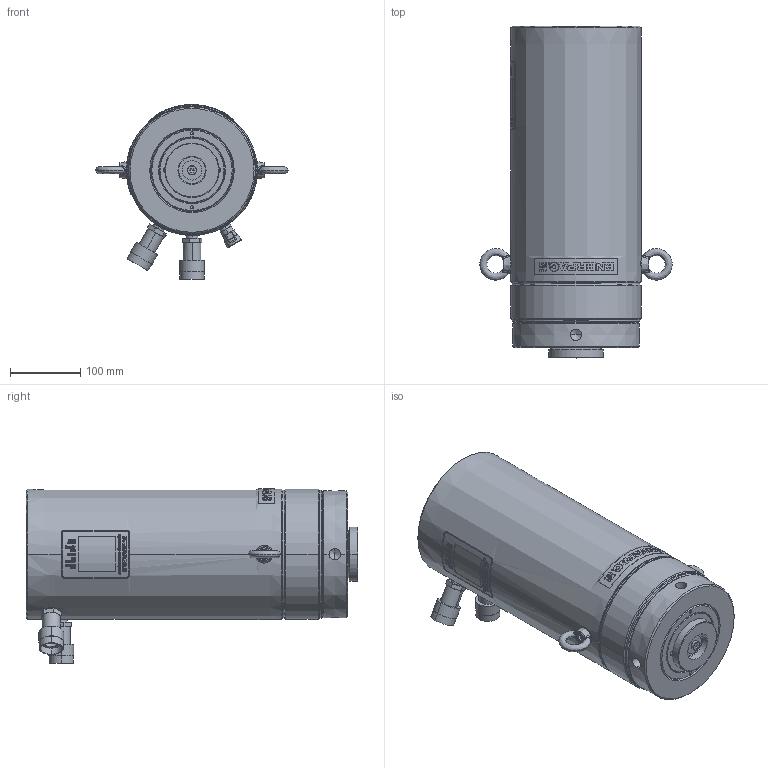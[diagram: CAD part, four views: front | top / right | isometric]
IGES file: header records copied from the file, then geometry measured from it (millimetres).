
Start section:  PTC IGES file: HCRL10010.igs
Global section: file name: HCRL10010.igs; native system: Creo Parametric by PTC Inc.; preprocessor: 2017020; author: mike.ward; organization: Unknown; date: 20180529.144645; units: inch
Bounding box: 272.83 x 470.77 x 247.99 mm (x, y, z)
Volume: 4956112.9 mm3; surface area: 619851 mm2
Topology: 3 solids, 4 shells, 2301 faces, 6138 edges, 4019 vertices
Faces by surface type: bspline 1802, revolution 468, extrusion 31
